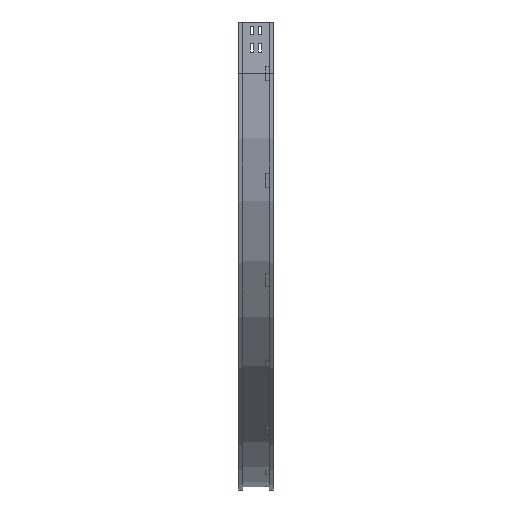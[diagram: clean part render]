
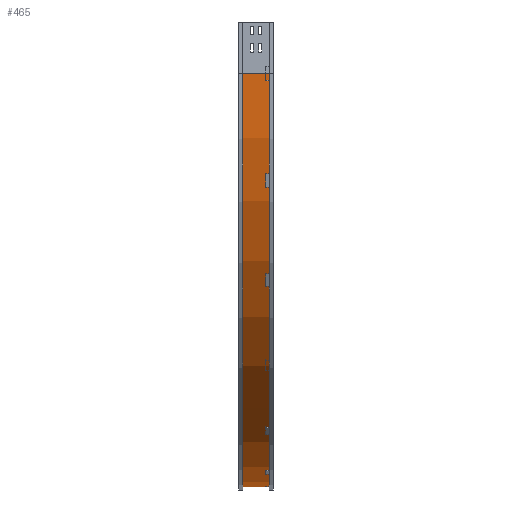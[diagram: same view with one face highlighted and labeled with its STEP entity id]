
A CAD part, left-side view. The second image highlights one B-rep face of the part: STEP entity #465.
In plain terms, the highlighted cylindrical face has radius 1200 mm (diameter 2400 mm), a partial arc.
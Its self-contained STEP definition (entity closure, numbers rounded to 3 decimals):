
#252 = ORIENTED_EDGE ( 'NONE', *, *, #1267, .F. ) ;
#386 = DIRECTION ( 'NONE',  ( 0., -1., 0. ) ) ;
#415 = AXIS2_PLACEMENT_3D ( 'NONE', #3539, #386, #3191 ) ;
#465 = ADVANCED_FACE ( 'NONE', ( #4166 ), #1040, .T. ) ;
#641 = CIRCLE ( 'NONE', #415, 1200. ) ;
#658 = VERTEX_POINT ( 'NONE', #3642 ) ;
#771 = VERTEX_POINT ( 'NONE', #2376 ) ;
#1040 = CYLINDRICAL_SURFACE ( 'NONE', #4443, 1200. ) ;
#1048 = VERTEX_POINT ( 'NONE', #4244 ) ;
#1267 = EDGE_CURVE ( 'NONE', #1888, #771, #2898, .T. ) ;
#1378 = CARTESIAN_POINT ( 'NONE',  ( 1209., 88., -150. ) ) ;
#1578 = EDGE_CURVE ( 'NONE', #771, #1048, #641, .T. ) ;
#1607 = ORIENTED_EDGE ( 'NONE', *, *, #4234, .T. ) ;
#1672 = VECTOR ( 'NONE', #3959, 1000. ) ;
#1692 = ORIENTED_EDGE ( 'NONE', *, *, #3538, .T. ) ;
#1888 = VERTEX_POINT ( 'NONE', #2487 ) ;
#2107 = CARTESIAN_POINT ( 'NONE',  ( 1209., 0., -150. ) ) ;
#2309 = AXIS2_PLACEMENT_3D ( 'NONE', #1378, #3516, #2781 ) ;
#2355 = ORIENTED_EDGE ( 'NONE', *, *, #1578, .F. ) ;
#2376 = CARTESIAN_POINT ( 'NONE',  ( 9., 12., -150. ) ) ;
#2487 = CARTESIAN_POINT ( 'NONE',  ( 9., 88., -150. ) ) ;
#2703 = CARTESIAN_POINT ( 'NONE',  ( 1209., 12., -1350. ) ) ;
#2749 = CIRCLE ( 'NONE', #2309, 1200. ) ;
#2781 = DIRECTION ( 'NONE',  ( -1., 0., 0. ) ) ;
#2795 = DIRECTION ( 'NONE',  ( 0., -1., 0. ) ) ;
#2898 = LINE ( 'NONE', #2972, #1672 ) ;
#2972 = CARTESIAN_POINT ( 'NONE',  ( 9., 12., -150. ) ) ;
#3191 = DIRECTION ( 'NONE',  ( -1., 0., 0. ) ) ;
#3303 = DIRECTION ( 'NONE',  ( 0., -1., 0. ) ) ;
#3516 = DIRECTION ( 'NONE',  ( 0., -1., 0. ) ) ;
#3538 = EDGE_CURVE ( 'NONE', #658, #1048, #4031, .T. ) ;
#3539 = CARTESIAN_POINT ( 'NONE',  ( 1209., 12., -150. ) ) ;
#3642 = CARTESIAN_POINT ( 'NONE',  ( 1209., 88., -1350. ) ) ;
#3825 = DIRECTION ( 'NONE',  ( 0., 0., -1. ) ) ;
#3959 = DIRECTION ( 'NONE',  ( 0., -1., 0. ) ) ;
#4031 = LINE ( 'NONE', #2703, #4219 ) ;
#4166 = FACE_OUTER_BOUND ( 'NONE', #4441, .T. ) ;
#4219 = VECTOR ( 'NONE', #3303, 1000. ) ;
#4234 = EDGE_CURVE ( 'NONE', #1888, #658, #2749, .T. ) ;
#4244 = CARTESIAN_POINT ( 'NONE',  ( 1209., 12., -1350. ) ) ;
#4441 = EDGE_LOOP ( 'NONE', ( #2355, #252, #1607, #1692 ) ) ;
#4443 = AXIS2_PLACEMENT_3D ( 'NONE', #2107, #2795, #3825 ) ;
